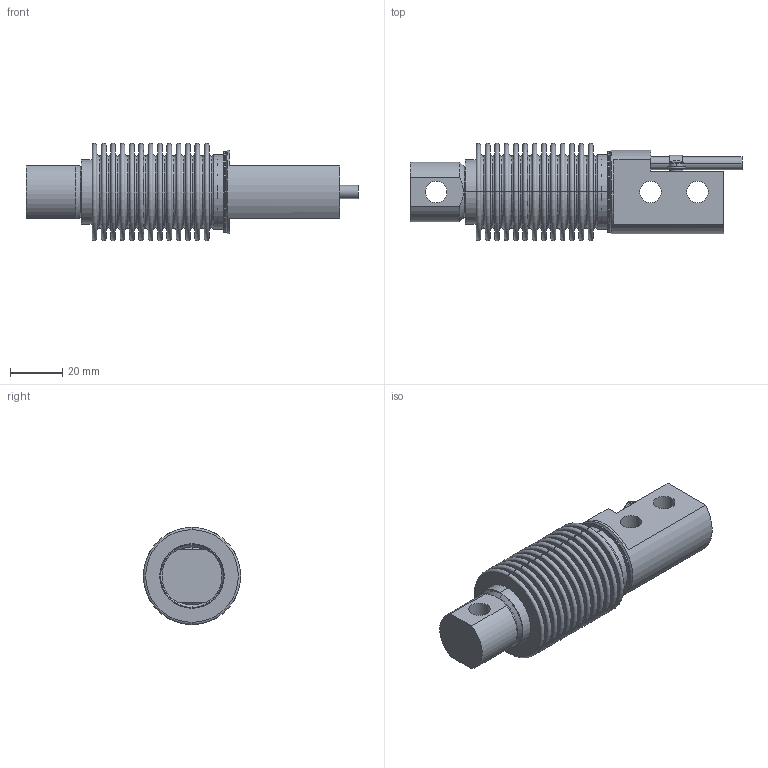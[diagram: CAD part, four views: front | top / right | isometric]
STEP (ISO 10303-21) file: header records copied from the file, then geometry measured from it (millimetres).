
FILE_DESCRIPTION (( 'STEP AP214' ), '1' );
FILE_NAME ('BM11-low cap assy.STEP', '2012-01-18T13:18:00', ( 'Gebruiker' ), ( 'Microsoft' ), 'SwSTEP 2.0', 'SolidWorks 2011', '' );
FILE_SCHEMA (( 'AUTOMOTIVE_DESIGN' ));
Length unit declared in the file: millimetre
Products named in the file (7): pan head cross recess screw_iso_ISO 7045 - M3 x 6 - Z --- 6N; Bellow; plain washer normal grade a_iso_Washer ISO 7089 - 3; Cable clip; Cable; Element 20kg; BM11-low cap assy
Assembly tree (6 placements, depth 2):
  BM11-low cap assy
    Cable clip
    Cable
    Element 20kg
    pan head cross recess screw_iso_ISO 7045 - M3 x 6 - Z --- 6N
    plain washer normal grade a_iso_Washer ISO 7089 - 3
    Bellow
Bounding box: 127.01 x 37.21 x 37.21 mm (x, y, z)
Volume: 39892.2 mm3; surface area: 47340 mm2
Topology: 6 solids, 6 shells, 353 faces, 763 edges, 477 vertices
Faces by surface type: torus 160, plane 111, cylinder 57, cone 23, sphere 2
Entity records: 10179 total; most frequent: DIRECTION 2054, CARTESIAN_POINT 1669, ORIENTED_EDGE 1518, AXIS2_PLACEMENT_3D 950, EDGE_CURVE 759, CIRCLE 588, VERTEX_POINT 477, EDGE_LOOP 430
